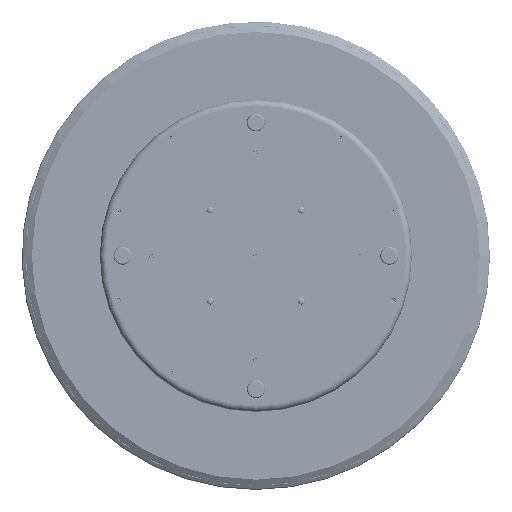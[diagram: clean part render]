
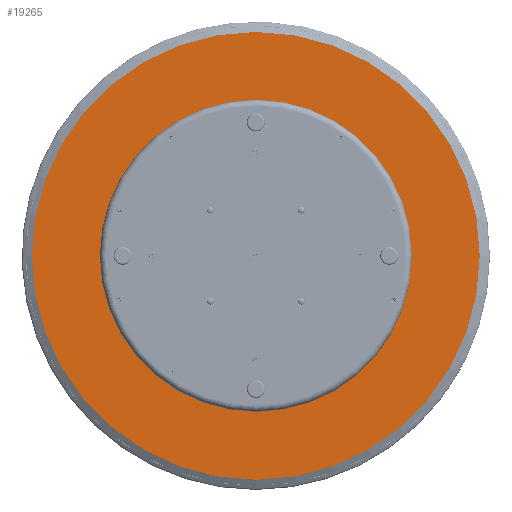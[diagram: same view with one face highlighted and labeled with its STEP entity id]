
A CAD part, front view. The second image highlights one B-rep face of the part: STEP entity #19265.
In plain terms, the highlighted planar face has unit normal (0, -1, 0).
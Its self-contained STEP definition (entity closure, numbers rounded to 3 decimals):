
#2231=CIRCLE('',#21800,17.213);
#3731=FACE_OUTER_BOUND('',#5037,.T.);
#5037=EDGE_LOOP('',(#17163));
#9529=VERTEX_POINT('',#48904);
#12107=EDGE_CURVE('',#9529,#9529,#2231,.T.);
#17163=ORIENTED_EDGE('',*,*,#12107,.T.);
#18213=PLANE('',#21803);
#19265=ADVANCED_FACE('',(#3731),#18213,.F.);
#21800=AXIS2_PLACEMENT_3D('',#48905,#26834,#26835);
#21803=AXIS2_PLACEMENT_3D('',#48910,#26841,#26842);
#26834=DIRECTION('center_axis',(0.,-1.,0.));
#26835=DIRECTION('ref_axis',(0.,0.,1.));
#26841=DIRECTION('center_axis',(0.,1.,0.));
#26842=DIRECTION('ref_axis',(0.,0.,1.));
#48904=CARTESIAN_POINT('',(0.,0.,-17.213));
#48905=CARTESIAN_POINT('Origin',(0.,0.,0.));
#48910=CARTESIAN_POINT('Origin',(0.,0.,0.));
